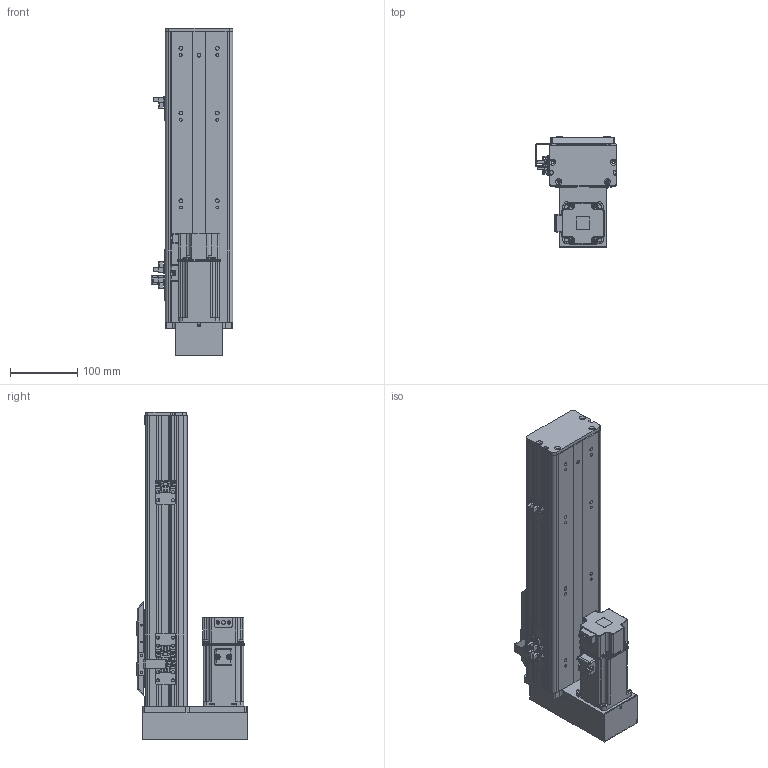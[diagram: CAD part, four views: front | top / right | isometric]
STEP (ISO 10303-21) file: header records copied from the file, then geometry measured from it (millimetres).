
FILE_DESCRIPTION (( 'STEP AP203' ), '1' );
FILE_NAME ('BOSW100-250-1610-1P-DM-M400W-O-S3（方程式2016）.step', '2020-10-10T06:40:45', ( '' ), ( '' ), 'SwSTEP 2.0', 'SolidWorks 2016', '' );
FILE_SCHEMA (( 'CONFIG_CONTROL_DESIGN' ));
Length unit declared in the file: millimetre
Products named in the file (14): 俋境嫖覜嘐隅啣; BOSW-100-1P-DM-宽轨-侧板-250客户图纸; BOSW-100-綴裔啣; 放大器内置U型微型光电传感器PM-L65; BOS-100-DM鎮湛假蚾啣; BOS100-DM鎮湛欶; BOSW&TW-100-俋离覜茼え; BOSW&TW-100-詩湍揤沭(陔賦凳); BOSW-100-1P-DM-250諦誧芞; S400W(SMA-L040); BOSW-100-1P-DM-宽轨-钢带-250客户图纸; BOSW&TW-100-1P-賑雄釱欶; BOSW100-250-1610-1P-DM-M400W-O-S3（方程式2016）; 新结构AIMSW-100-1P-宽&高轨共用-滑动座上组件
Assembly tree (19 placements, depth 2):
  BOSW100-250-1610-1P-DM-M400W-O-S3（方程式2016）
    BOSW-100-1P-DM-250諦誧芞
    BOSW-100-綴裔啣
    新结构AIMSW-100-1P-宽&高轨共用-滑动座上组件
    S400W(SMA-L040)
    BOSW&TW-100-詩湍揤沭(陔賦凳)  x2
    BOSW&TW-100-1P-賑雄釱欶
    BOSW&TW-100-俋离覜茼え
    俋境嫖覜嘐隅啣  x3
    放大器内置U型微型光电传感器PM-L65  x3
    BOSW-100-1P-DM-宽轨-侧板-250客户图纸  x2
    BOSW-100-1P-DM-宽轨-钢带-250客户图纸
    BOS100-DM鎮湛欶
    BOS-100-DM鎮湛假蚾啣
Bounding box: 120.9 x 164 x 486 mm (x, y, z)
Volume: 1246124.8 mm3; surface area: 612206.5 mm2
Topology: 19 solids, 19 shells, 2512 faces, 6614 edges, 4225 vertices
Faces by surface type: plane 1261, cylinder 775, bspline 271, cone 157, torus 36, sphere 12
Entity records: 68691 total; most frequent: CARTESIAN_POINT 20644, ORIENTED_EDGE 9784, DIRECTION 9448, EDGE_CURVE 4892, AXIS2_PLACEMENT_3D 3324, VERTEX_POINT 3127, LINE 2800, VECTOR 2800
